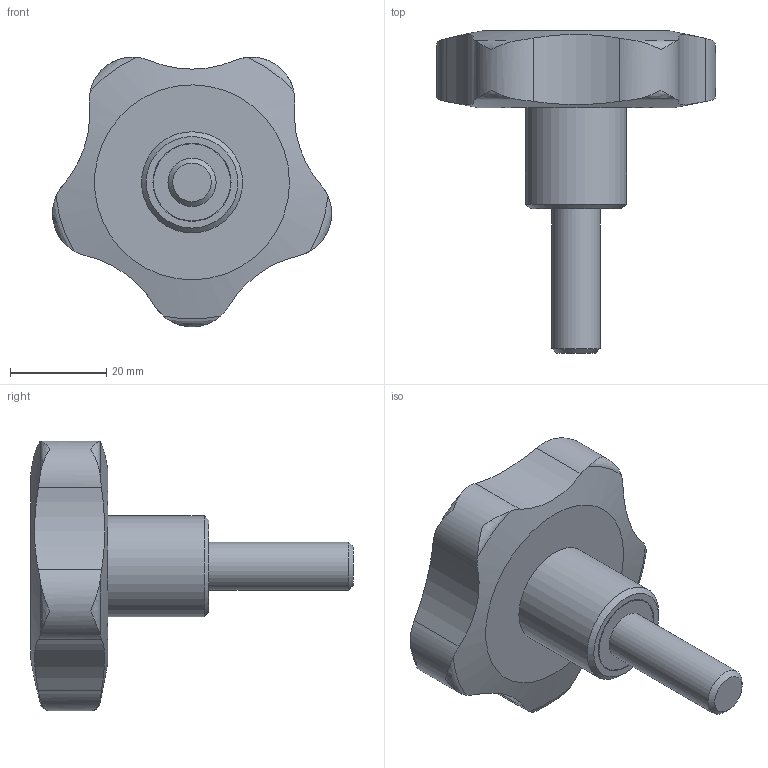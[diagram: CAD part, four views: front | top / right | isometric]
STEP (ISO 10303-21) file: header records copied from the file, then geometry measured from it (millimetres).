
FILE_DESCRIPTION( ( 'STEP AP203' ), '1' );
FILE_NAME( 'C:/Temp/Ganter_Step_05_03_2020/data/2_2/gn_5337_4/gn_5337_4_s/Star knob GN 5337.4-60-M10-30.stp', '2020-03-05T12:09:50', ( 'License CC BY-ND 4.0' ), ( 'CADENAS' ), ' ', 'PARTsolutions', ' ' );
FILE_SCHEMA( ( 'CONFIG_CONTROL_DESIGN' ) );
Length unit declared in the file: millimetre
Products named in the file (1): _Star knob GN 5337.4-60-M10-30
Bounding box: 57.93 x 67 x 55.99 mm (x, y, z)
Volume: 42777.6 mm3; surface area: 9174 mm2
Topology: 1 solids, 1 shells, 34 faces, 90 edges, 61 vertices
Faces by surface type: cylinder 14, torus 10, plane 5, cone 3, bspline 1, sphere 1
Full cylindrical faces by diameter (mm): 10 x1, 16 x1, 16.2 x1, 21 x1
Entity records: 1493 total; most frequent: CARTESIAN_POINT 730, ORIENTED_EDGE 154, DIRECTION 122, EDGE_CURVE 77, VERTEX_POINT 58, AXIS2_PLACEMENT_3D 56, EDGE_LOOP 46, B_SPLINE_CURVE_WITH_KNOTS 45
